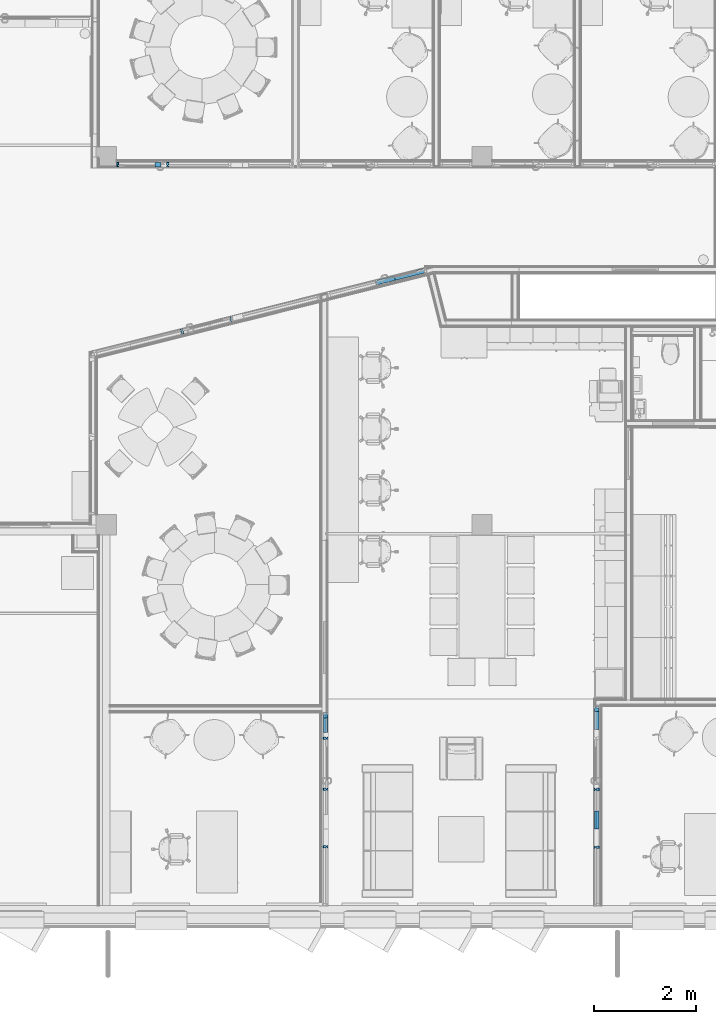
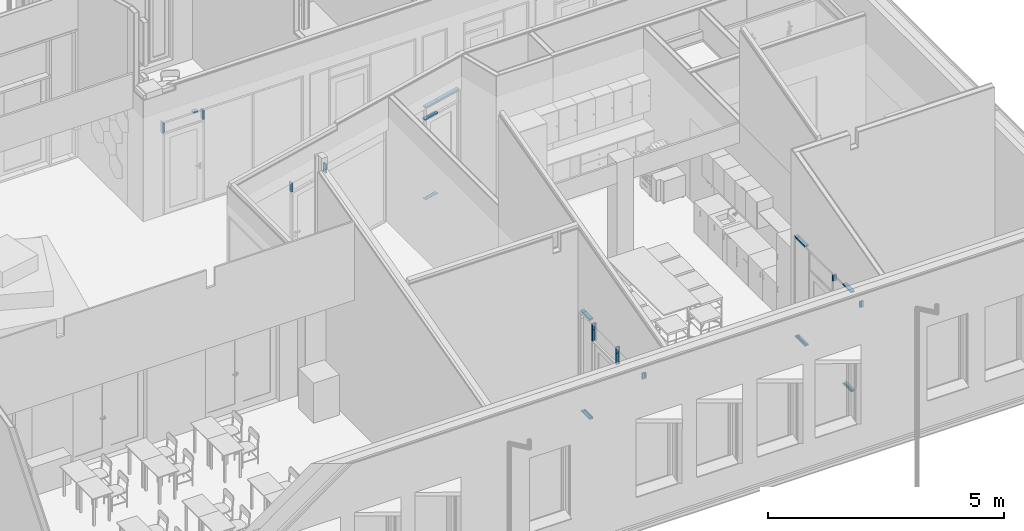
# One storey, part 5 of 153: 26 members, 5 elements without a shape of their own.
"""IFC2X3 building model written with IfcOpenShell, lengths in millimetres."""

from ifc_helpers import new_model, entity, si_unit, converted_unit, derived_unit, money_unit, direction, frame, origin_with_axes, place, context, subcontext, project, spatial, faceted_brep, source, transform, mapped, material, type_object, element, aggregate, save


model = new_model("IFC2X3")

# Units and contexts
model_context = context("Model", 3, precision=0.01, world=origin_with_axes(), true_north=direction((0.0, 1.0)))
body_context = subcontext(model_context, "Body", "Model", "MODEL_VIEW")
ifc_project = project(units=[si_unit("LENGTHUNIT", "METRE", prefix="MILLI"), si_unit("AREAUNIT", "SQUARE_METRE"), si_unit("VOLUMEUNIT", "CUBIC_METRE"), converted_unit("PLANEANGLEUNIT", "DEGREE", entity("IfcPlaneAngleMeasure", 0.0174532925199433), si_unit("PLANEANGLEUNIT", "RADIAN"), dimensions=[0, 0, 0, 0, 0, 0, 0]), money_unit("EUR"), converted_unit("TIMEUNIT", "Year", entity("IfcTimeMeasure", 31557600.0), si_unit("TIMEUNIT", "SECOND"), dimensions=[0, 0, 1, 0, 0, 0, 0]), si_unit("MASSUNIT", "GRAM", prefix="KILO"), si_unit("THERMODYNAMICTEMPERATUREUNIT", "DEGREE_CELSIUS"), si_unit("LUMINOUSINTENSITYUNIT", "LUMEN"), si_unit("ENERGYUNIT", "JOULE", prefix="MEGA"), derived_unit("THERMALCONDUCTANCEUNIT", [(si_unit("POWERUNIT", "WATT"), 1), (si_unit("LENGTHUNIT", "METRE"), -1), (si_unit("THERMODYNAMICTEMPERATUREUNIT", "KELVIN"), -1)]), derived_unit("SPECIFICHEATCAPACITYUNIT", [(si_unit("ENERGYUNIT", "JOULE"), 1), (si_unit("MASSUNIT", "GRAM", prefix="KILO"), -1), (si_unit("THERMODYNAMICTEMPERATUREUNIT", "KELVIN"), -1)]), derived_unit("MASSDENSITYUNIT", [(si_unit("MASSUNIT", "GRAM", prefix="KILO"), 1), (si_unit("VOLUMEUNIT", "CUBIC_METRE"), -1)])], contexts=[model_context])

# Site, building, storey
site_placement = place(None, frame((0.0, 0.0, 8650.0), z_axis=(0.0, 0.0, 1.0), x_axis=(1.0, 0.0, 0.0)))
site = spatial("IfcSite", under=ifc_project, at=site_placement, Name="43301:001:0844", CompositionType="ELEMENT")
building_placement = place(site_placement, origin_with_axes())
building = spatial("IfcBuilding", under=site, at=building_placement, Name="Kuressaare Ametikooli tuulikute mehaanikute õppekorpus", CompositionType="ELEMENT")
storey_placement = place(building_placement, frame((0.0, 0.0, 4100.0), z_axis=(0.0, 0.0, 1.0), x_axis=(1.0, 0.0, 0.0)))
storey = spatial("IfcBuildingStorey", under=building, at=storey_placement, Name="2.korrus", CompositionType="ELEMENT", Elevation=4100.0)

# Curtain wall, members
curtain_wall_type = type_object("IfcCurtainWallType", Name="Curtain Wall Type", PredefinedType="NOTDEFINED")
curtain_wall_1_placement = place(storey_placement, frame((122879.3962682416, 12626.24529387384, 0.0), z_axis=(0.0, 0.0, 1.0), x_axis=(1.0, 0.0, 0.0)))
curtain_wall_1 = element("IfcCurtainWall", 1, at=curtain_wall_1_placement, inside=storey, type_object=curtain_wall_type, Name="PKF-3")
ifc_material = material(Name="Aluminium")
member_type_1 = type_object("IfcMemberType", Name="Boundary Frame 40 x 90", PredefinedType="NOTDEFINED")
shared_shape_1 = source(origin_with_axes(), body_context, "Body", "Brep", [
    faceted_brep([(-25.0, -15.0, 287.0486471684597), (-40.0, -15.0, 287.0486471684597), (-40.0, -65.0, 287.0486471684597), (0.0, -65.0, 287.0486471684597), (0.0, 0.0, 287.0486471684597), (0.0, 24.99999999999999, 287.0486471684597), (-40.0, 24.99999999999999, 287.0486471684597), (-40.0, 15.0, 287.0486471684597), (-25.0, 15.0, 287.0486471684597), (-25.0, -15.0, 0.0), (-40.0, -15.0, 0.0), (-40.0, -65.0, 0.0), (0.0, -65.0, 0.0), (0.0, 0.0, 0.0), (0.0, 24.99999999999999, 0.0), (-40.0, 24.99999999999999, 0.0), (-40.0, 15.0, 0.0), (-25.0, 15.0, 0.0)], [[[0, 1, 2, 3, 4, 5, 6, 7, 8]], [[0, 9, 10, 1]], [[10, 11, 2, 1]], [[11, 12, 3, 2]], [[12, 13, 4, 3]], [[13, 14, 5, 4]], [[14, 15, 6, 5]], [[7, 6, 15, 16]], [[16, 17, 8, 7]], [[8, 17, 9, 0]], [[9, 17, 16, 15, 14, 13, 12, 11, 10]]]),
])
member_1_placement = place(curtain_wall_1_placement, frame((0.0, -117.9358905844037, 2600.0), z_axis=(0.0, 1.0, 0.0), x_axis=(0.0, 0.0, 1.0)))
member_1 = element("IfcMember", 2, at=member_1_placement, type_object=member_type_1, material=ifc_material, context=body_context, shape_type="MappedRepresentation", body=[
    mapped(shared_shape_1, transform((0.0, 0.0, 0.0))),
])
shared_shape_2 = source(origin_with_axes(), body_context, "Body", "Brep", [
    faceted_brep([(-25.0, -15.0, 77.57788238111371), (-40.0, -15.0, 62.57787646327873), (-40.0, -65.0, 62.57787646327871), (0.0, -65.0, 102.577892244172), (0.0, 0.0, 102.577892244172), (0.0, 24.99999999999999, 102.577892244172), (-40.0, 24.99999999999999, 62.57787646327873), (-40.0, 15.0, 62.57787646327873), (-25.0, 15.0, 77.57788238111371), (-25.0, -15.0, 0.0), (-40.0, -15.0, 0.0), (-40.0, -65.0, 0.0), (0.0, -65.0, 0.0), (0.0, 0.0, 0.0), (0.0, 24.99999999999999, 0.0), (-40.0, 24.99999999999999, 0.0), (-40.0, 15.0, 0.0), (-25.0, 15.0, 0.0)], [[[0, 1, 2, 3, 4, 5, 6, 7, 8]], [[0, 9, 10, 1]], [[10, 11, 2, 1]], [[11, 12, 3, 2]], [[12, 13, 4, 3]], [[13, 14, 5, 4]], [[14, 15, 6, 5]], [[7, 6, 15, 16]], [[16, 17, 8, 7]], [[8, 17, 9, 0]], [[9, 17, 16, 15, 14, 13, 12, 11, 10]]]),
])
member_2_placement = place(curtain_wall_1_placement, frame((0.0, 169.1127565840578, 2600.0), z_axis=(0.0, 1.0, 0.0), x_axis=(0.0, 0.0, 1.0)))
member_2 = element("IfcMember", 3, at=member_2_placement, type_object=member_type_1, material=ifc_material, context=body_context, shape_type="MappedRepresentation", body=[
    mapped(shared_shape_2, transform((0.0, 0.0, 0.0))),
])

# Curtain wall, member
curtain_wall_2_placement = place(storey_placement, frame((128142.9907946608, 12695.39546179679, 0.0), z_axis=(0.0, 0.0, 1.0), x_axis=(1.0, 0.0, 0.0)))
curtain_wall_2 = element("IfcCurtainWall", 4, at=curtain_wall_2_placement, inside=storey, type_object=curtain_wall_type, Name="PKF-4")
member_3_placement = place(curtain_wall_2_placement, frame((0.0, 226.0735254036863, 0.0), z_axis=(0.0, 1.0, 0.0), x_axis=(0.0, 0.0, 1.0)))
member_3 = element("IfcMember", 5, at=member_3_placement, type_object=member_type_1, material=ifc_material, context=body_context, shape_type="MappedRepresentation", body=[
    mapped(shared_shape_2, transform((0.0, 0.0, 0.0), x_axis=(-1.0, 0.0, 0.0), y_axis=(0.0, -1.0, 0.0), z_axis=(0.0, 0.0, 1.0))),
])

# Member
shared_shape_3 = source(origin_with_axes(), body_context, "Body", "Brep", [
    faceted_brep([(25.0, -15.0, 287.0486471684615), (25.0, 15.0, 287.0486471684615), (40.0, 15.0, 287.0486471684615), (40.0, 24.99999999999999, 287.0486471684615), (0.0, 24.99999999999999, 287.0486471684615), (0.0, 0.0, 287.0486471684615), (0.0, -65.0, 287.0486471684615), (40.0, -65.0, 287.0486471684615), (40.0, -15.0, 287.0486471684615), (25.0, -15.0, 0.0), (25.0, 15.0, 0.0), (40.0, 15.0, 0.0), (40.0, 24.99999999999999, 0.0), (0.0, 24.99999999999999, 0.0), (0.0, 0.0, 0.0), (0.0, -65.0, 0.0), (40.0, -65.0, 0.0), (40.0, -15.0, 0.0)], [[[0, 1, 2, 3, 4, 5, 6, 7, 8]], [[1, 0, 9, 10]], [[11, 2, 1, 10]], [[2, 11, 12, 3]], [[13, 4, 3, 12]], [[14, 5, 4, 13]], [[15, 6, 5, 14]], [[16, 7, 6, 15]], [[17, 8, 7, 16]], [[0, 8, 17, 9]], [[9, 17, 16, 15, 14, 13, 12, 11, 10]]]),
])
member_4_placement = place(curtain_wall_1_placement, frame((0.0, -117.9358905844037, 0.0), z_axis=(0.0, 1.0, 0.0), x_axis=(0.0, 0.0, 1.0)))
member_4 = element("IfcMember", 6, at=member_4_placement, type_object=member_type_1, material=ifc_material, context=body_context, shape_type="MappedRepresentation", body=[
    mapped(shared_shape_3, transform((0.0, 0.0, 0.0))),
])

shared_shape_4 = source(origin_with_axes(), body_context, "Body", "Brep", [
    faceted_brep([(25.0, -15.0, 77.57781333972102), (25.0, 15.0, 77.57781333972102), (40.0, 15.0, 62.57781333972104), (40.0, 24.99999999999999, 62.57781333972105), (0.0, 24.99999999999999, 102.577813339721), (0.0, 0.0, 102.577813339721), (0.0, -65.0, 102.577813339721), (40.0, -65.0, 62.57781333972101), (40.0, -15.0, 62.57781333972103), (25.0, -15.0, 0.0), (25.0, 15.0, 0.0), (40.0, 15.0, 0.0), (40.0, 24.99999999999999, 0.0), (0.0, 24.99999999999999, 0.0), (0.0, 0.0, 0.0), (0.0, -65.0, 0.0), (40.0, -65.0, 0.0), (40.0, -15.0, 0.0)], [[[0, 1, 2, 3, 4, 5, 6, 7, 8]], [[1, 0, 9, 10]], [[11, 2, 1, 10]], [[2, 11, 12, 3]], [[13, 4, 3, 12]], [[14, 5, 4, 13]], [[15, 6, 5, 14]], [[16, 7, 6, 15]], [[17, 8, 7, 16]], [[0, 8, 17, 9]], [[9, 17, 16, 15, 14, 13, 12, 11, 10]]]),
])
member_5_placement = place(curtain_wall_1_placement, frame((0.0, 169.1127565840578, 0.0), z_axis=(0.0, 1.0, 0.0), x_axis=(0.0, 0.0, 1.0)))
member_5 = element("IfcMember", 7, at=member_5_placement, type_object=member_type_1, material=ifc_material, context=body_context, shape_type="MappedRepresentation", body=[
    mapped(shared_shape_4, transform((0.0, 0.0, 0.0))),
])

member_6_placement = place(curtain_wall_2_placement, frame((0.0, 226.0735254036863, 2600.0), z_axis=(0.0, 1.0, 0.0), x_axis=(0.0, 0.0, 1.0)))
member_6 = element("IfcMember", 8, at=member_6_placement, type_object=member_type_1, material=ifc_material, context=body_context, shape_type="MappedRepresentation", body=[
    mapped(shared_shape_4, transform((0.0, 0.0, 0.0), x_axis=(-1.0, 0.0, 0.0), y_axis=(0.0, -1.0, 0.0), z_axis=(0.0, 0.0, 1.0))),
])

member_type_2 = type_object("IfcMemberType", Name="Mullion Frame 40 x 90", PredefinedType="NOTDEFINED")
shared_shape_5 = source(origin_with_axes(), body_context, "Body", "Brep", [
    faceted_brep([(-5.000000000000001, -15.0, 160.0000000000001), (-20.0, -15.0, 160.0000000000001), (-20.0, -65.0, 160.0000000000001), (20.0, -65.0, 160.0000000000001), (20.0, -15.0, 160.0000000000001), (5.000000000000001, -15.0, 160.0000000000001), (5.000000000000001, 15.0, 160.0000000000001), (20.0, 15.0, 160.0000000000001), (20.0, 24.99999999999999, 160.0000000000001), (-20.0, 24.99999999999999, 160.0000000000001), (-20.0, 15.0, 160.0000000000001), (-5.000000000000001, 15.0, 160.0000000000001), (-5.000000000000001, -15.0, -9.934120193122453e-08), (-20.0, -15.0, -9.934121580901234e-08), (-20.0, -65.0, -9.934121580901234e-08), (20.0, -65.0, -9.934121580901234e-08), (20.0, -15.0, -9.934121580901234e-08), (5.000000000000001, -15.0, -9.934120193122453e-08), (5.000000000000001, 15.0, -9.934120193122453e-08), (20.0, 15.0, -9.934121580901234e-08), (20.0, 24.99999999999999, -9.934121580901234e-08), (-20.0, 24.99999999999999, -9.934121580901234e-08), (-20.0, 15.0, -9.934121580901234e-08), (-5.000000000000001, 15.0, -9.934120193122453e-08)], [[[0, 1, 2, 3, 4, 5, 6, 7, 8, 9, 10, 11]], [[1, 0, 12, 13]], [[1, 13, 14, 2]], [[3, 2, 14, 15]], [[4, 3, 15, 16]], [[4, 16, 17, 5]], [[5, 17, 18, 6]], [[7, 6, 18, 19]], [[19, 20, 8, 7]], [[9, 8, 20, 21]], [[22, 10, 9, 21]], [[11, 10, 22, 23]], [[0, 11, 23, 12]], [[23, 22, 21, 20, 19, 18, 17, 16, 15, 14, 13, 12]]]),
])
member_7_placement = place(curtain_wall_1_placement, frame((0.0, -229.3563835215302, 2400.0), z_axis=(0.0, 0.0, 1.0), x_axis=(0.0, -1.0, 0.0)))
member_7 = element("IfcMember", 9, at=member_7_placement, type_object=member_type_2, material=ifc_material, context=body_context, shape_type="MappedRepresentation", body=[
    mapped(shared_shape_5, transform((0.0, 0.0, 0.0))),
])

member_8_placement = place(curtain_wall_1_placement, frame((0.0, -1229.358130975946, 2400.0), z_axis=(0.0, -1.192094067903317e-07, 0.9999999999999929), x_axis=(0.0, -0.9999999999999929, -1.192094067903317e-07)))
member_8 = element("IfcMember", 10, at=member_8_placement, type_object=member_type_2, material=ifc_material, context=body_context, shape_type="MappedRepresentation", body=[
    mapped(shared_shape_5, transform((0.0, 0.0, 0.0))),
])

member_9_placement = place(curtain_wall_1_placement, frame((0.0, -2345.882414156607, 2400.0), z_axis=(0.0, -1.115667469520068e-07, 0.9999999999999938), x_axis=(0.0, -0.9999999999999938, -1.115667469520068e-07)))
member_9 = element("IfcMember", 11, at=member_9_placement, type_object=member_type_2, material=ifc_material, context=body_context, shape_type="MappedRepresentation", body=[
    mapped(shared_shape_5, transform((0.0, 0.0, 0.0))),
])

shared_shape_6 = source(origin_with_axes(), body_context, "Body", "Brep", [
    faceted_brep([(-5.000000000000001, -15.0, 299.9999854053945), (-20.0, -15.0, 299.9999854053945), (-20.0, -65.0, 299.9999854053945), (20.0, -65.0, 299.9999854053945), (20.0, -15.0, 299.9999854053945), (5.000000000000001, -15.0, 299.9999854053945), (5.000000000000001, 15.0, 299.9999854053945), (20.0, 15.0, 299.9999854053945), (20.0, 24.99999999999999, 299.9999854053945), (-20.0, 24.99999999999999, 299.9999854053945), (-20.0, 15.0, 299.9999854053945), (-5.000000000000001, 15.0, 299.9999854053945), (-5.000000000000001, -15.0, 0.0), (-20.0, -15.0, 0.0), (-20.0, -65.0, 0.0), (20.0, -65.0, 0.0), (20.0, -15.0, 0.0), (5.000000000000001, -15.0, 0.0), (5.000000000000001, 15.0, 0.0), (20.0, 15.0, 0.0), (20.0, 24.99999999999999, 0.0), (-20.0, 24.99999999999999, 0.0), (-20.0, 15.0, 0.0), (-5.000000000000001, 15.0, 0.0)], [[[0, 1, 2, 3, 4, 5, 6, 7, 8, 9, 10, 11]], [[1, 0, 12, 13]], [[1, 13, 14, 2]], [[3, 2, 14, 15]], [[4, 3, 15, 16]], [[4, 16, 17, 5]], [[5, 17, 18, 6]], [[7, 6, 18, 19]], [[19, 20, 8, 7]], [[9, 8, 20, 21]], [[22, 10, 9, 21]], [[11, 10, 22, 23]], [[0, 11, 23, 12]], [[23, 22, 21, 20, 19, 18, 17, 16, 15, 14, 13, 12]]]),
])
member_10_placement = place(curtain_wall_1_placement, frame((0.0, -229.356382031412, 2100.000014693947), z_axis=(0.0, -4.967061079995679e-09, 1.0), x_axis=(0.0, -1.0, -4.967061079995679e-09)))
member_10 = element("IfcMember", 12, at=member_10_placement, type_object=member_type_2, material=ifc_material, context=body_context, shape_type="MappedRepresentation", body=[
    mapped(shared_shape_6, transform((0.0, 0.0, 0.0))),
])

member_11_placement = place(curtain_wall_1_placement, frame((0.0, -1229.358130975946, 2099.999978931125), z_axis=(0.0, 0.0, 1.0), x_axis=(0.0, -1.0, 0.0)))
member_11 = element("IfcMember", 13, at=member_11_placement, type_object=member_type_2, material=ifc_material, context=body_context, shape_type="MappedRepresentation", body=[
    mapped(shared_shape_6, transform((0.0, 0.0, 0.0))),
])

aggregate(curtain_wall_1, [member_1, member_2, member_4, member_5, member_7, member_10, member_8, member_11, member_9])

shared_shape_7 = source(origin_with_axes(), body_context, "Body", "Brep", [
    faceted_brep([(-25.0, -15.0, 350.1041155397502), (-40.0, -15.0, 350.1041155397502), (-40.0, -65.0, 350.1041155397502), (0.0, -65.0, 350.1041155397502), (0.0, 0.0, 350.1041155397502), (0.0, 24.99999999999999, 350.1041155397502), (-40.0, 24.99999999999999, 350.1041155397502), (-40.0, 15.0, 350.1041155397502), (-25.0, 15.0, 350.1041155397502), (-25.0, -15.0, 0.0), (-40.0, -15.0, 0.0), (-40.0, -65.0, 0.0), (0.0, -65.0, 0.0), (0.0, 0.0, 0.0), (0.0, 24.99999999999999, 0.0), (-40.0, 24.99999999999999, 0.0), (-40.0, 15.0, 0.0), (-25.0, 15.0, 0.0)], [[[0, 1, 2, 3, 4, 5, 6, 7, 8]], [[0, 9, 10, 1]], [[10, 11, 2, 1]], [[11, 12, 3, 2]], [[12, 13, 4, 3]], [[13, 14, 5, 4]], [[14, 15, 6, 5]], [[7, 6, 15, 16]], [[16, 17, 8, 7]], [[8, 17, 9, 0]], [[9, 17, 16, 15, 14, 13, 12, 11, 10]]]),
])
member_12_placement = place(curtain_wall_2_placement, frame((0.0, -124.0305901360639, 0.0), z_axis=(0.0, 1.0, 0.0), x_axis=(0.0, 0.0, 1.0)))
member_12 = element("IfcMember", 14, at=member_12_placement, type_object=member_type_1, material=ifc_material, context=body_context, shape_type="MappedRepresentation", body=[
    mapped(shared_shape_7, transform((0.0, 0.0, 0.0), x_axis=(-1.0, 0.0, 0.0), y_axis=(0.0, -1.0, 0.0), z_axis=(0.0, 0.0, 1.0))),
])

member_13_placement = place(curtain_wall_2_placement, frame((0.0, -2074.134705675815, 0.0), z_axis=(0.0, 1.0, 0.0), x_axis=(0.0, 0.0, 1.0)))
member_13 = element("IfcMember", 15, at=member_13_placement, type_object=member_type_1, material=ifc_material, context=body_context, shape_type="MappedRepresentation", body=[
    mapped(shared_shape_7, transform((0.0, 0.0, 0.0), x_axis=(-1.0, 0.0, 0.0), y_axis=(0.0, -1.0, 0.0), z_axis=(0.0, 0.0, 1.0))),
])

shared_shape_8 = source(origin_with_axes(), body_context, "Body", "Brep", [
    faceted_brep([(25.0, -15.0, 350.1041155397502), (25.0, 15.0, 350.1041155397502), (40.0, 15.0, 350.1041155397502), (40.0, 24.99999999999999, 350.1041155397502), (0.0, 24.99999999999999, 350.1041155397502), (0.0, 0.0, 350.1041155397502), (0.0, -65.0, 350.1041155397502), (40.0, -65.0, 350.1041155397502), (40.0, -15.0, 350.1041155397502), (25.0, -15.0, 0.0), (25.0, 15.0, 0.0), (40.0, 15.0, 0.0), (40.0, 24.99999999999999, 0.0), (0.0, 24.99999999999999, 0.0), (0.0, 0.0, 0.0), (0.0, -65.0, 0.0), (40.0, -65.0, 0.0), (40.0, -15.0, 0.0)], [[[0, 1, 2, 3, 4, 5, 6, 7, 8]], [[1, 0, 9, 10]], [[11, 2, 1, 10]], [[2, 11, 12, 3]], [[13, 4, 3, 12]], [[14, 5, 4, 13]], [[15, 6, 5, 14]], [[16, 7, 6, 15]], [[17, 8, 7, 16]], [[0, 8, 17, 9]], [[9, 17, 16, 15, 14, 13, 12, 11, 10]]]),
])
member_14_placement = place(curtain_wall_2_placement, frame((0.0, -2074.134705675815, 2600.0), z_axis=(0.0, 1.0, 0.0), x_axis=(0.0, 0.0, 1.0)))
member_14 = element("IfcMember", 16, at=member_14_placement, type_object=member_type_1, material=ifc_material, context=body_context, shape_type="MappedRepresentation", body=[
    mapped(shared_shape_8, transform((0.0, 0.0, 0.0), x_axis=(-1.0, 0.0, 0.0), y_axis=(0.0, -1.0, 0.0), z_axis=(0.0, 0.0, 1.0))),
])

member_15_placement = place(curtain_wall_2_placement, frame((0.0, -124.0305901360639, 2600.0), z_axis=(0.0, 1.0, 0.0), x_axis=(0.0, 0.0, 1.0)))
member_15 = element("IfcMember", 17, at=member_15_placement, type_object=member_type_1, material=ifc_material, context=body_context, shape_type="MappedRepresentation", body=[
    mapped(shared_shape_8, transform((0.0, 0.0, 0.0), x_axis=(-1.0, 0.0, 0.0), y_axis=(0.0, -1.0, 0.0), z_axis=(0.0, 0.0, 1.0))),
])

shared_shape_9 = source(origin_with_axes(), body_context, "Body", "Brep", [
    faceted_brep([(5.000000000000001, -15.0, 160.0000234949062), (5.000000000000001, 15.0, 160.0000234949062), (20.0, 15.0, 160.0000234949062), (20.0, 24.99999999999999, 160.0000234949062), (-20.0, 24.99999999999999, 160.0000234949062), (-20.0, 15.0, 160.0000234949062), (-5.000000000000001, 15.0, 160.0000234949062), (-5.000000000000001, -15.0, 160.0000234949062), (-20.0, -15.0, 160.0000234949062), (-20.0, -65.0, 160.0000234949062), (20.0, -65.0, 160.0000234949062), (20.0, -15.0, 160.0000234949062), (5.000000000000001, -15.0, -2.528326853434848e-06), (5.000000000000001, 15.0, -2.528326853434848e-06), (20.0, 15.0, -2.528326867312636e-06), (20.0, 24.99999999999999, -2.528326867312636e-06), (-20.0, 24.99999999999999, -2.528326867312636e-06), (-20.0, 15.0, -2.528326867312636e-06), (-5.000000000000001, 15.0, -2.528326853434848e-06), (-5.000000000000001, -15.0, -2.528326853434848e-06), (-20.0, -15.0, -2.528326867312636e-06), (-20.0, -65.0, -2.528326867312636e-06), (20.0, -65.0, -2.528326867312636e-06), (20.0, -15.0, -2.528326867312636e-06)], [[[0, 1, 2, 3, 4, 5, 6, 7, 8, 9, 10, 11]], [[0, 12, 13, 1]], [[1, 13, 14, 2]], [[14, 15, 3, 2]], [[3, 15, 16, 4]], [[17, 5, 4, 16]], [[5, 17, 18, 6]], [[7, 6, 18, 19]], [[8, 7, 19, 20]], [[8, 20, 21, 9]], [[9, 21, 22, 10]], [[11, 10, 22, 23]], [[11, 23, 12, 0]], [[13, 12, 23, 22, 21, 20, 19, 18, 17, 16, 15, 14]]]),
])
member_16_placement = place(curtain_wall_2_placement, frame((0.0, -1299.32095018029, 2400.0), z_axis=(0.0, -1.490117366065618e-07, 0.9999999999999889), x_axis=(0.0, -0.9999999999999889, -1.490117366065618e-07)))
member_16 = element("IfcMember", 18, at=member_16_placement, type_object=member_type_2, material=ifc_material, context=body_context, shape_type="MappedRepresentation", body=[
    mapped(shared_shape_9, transform((0.0, 0.0, 0.0), x_axis=(-0.9999999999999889, 0.0, -1.490117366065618e-07), y_axis=(0.0, -1.0, 0.0), z_axis=(-1.490117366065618e-07, 0.0, 0.9999999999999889))),
])

member_17_placement = place(curtain_wall_2_placement, frame((0.0, -2425.438877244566, 2400.0), z_axis=(0.0, -9.800084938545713e-08, 0.9999999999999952), x_axis=(0.0, -0.9999999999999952, -9.800084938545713e-08)))
member_17 = element("IfcMember", 19, at=member_17_placement, type_object=member_type_2, material=ifc_material, context=body_context, shape_type="MappedRepresentation", body=[
    mapped(shared_shape_9, transform((0.0, 0.0, 0.0), x_axis=(-0.9999999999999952, 0.0, -9.800084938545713e-08), y_axis=(0.0, -1.0, 0.0), z_axis=(-9.800084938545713e-08, 0.0, 0.9999999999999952))),
])

aggregate(curtain_wall_2, [member_12, member_3, member_14, member_15, member_6, member_13, member_16, member_17])

# Curtain wall, members
curtain_wall_3_placement = place(storey_placement, frame((120547.3158940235, 20502.05468019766, 0.0), z_axis=(0.0, 0.0, 1.0), x_axis=(1.0, 0.0, 0.0)))
curtain_wall_3 = element("IfcCurtainWall", 20, at=curtain_wall_3_placement, inside=storey, type_object=curtain_wall_type, Name="PKF-2.2")
shared_shape_10 = source(origin_with_axes(), body_context, "Body", "Brep", [
    faceted_brep([(-5.000000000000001, -15.0, 260.000051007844), (-20.0, -15.0, 260.000051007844), (-20.0, -65.0, 260.000051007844), (20.0, -65.0, 260.000051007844), (20.0, -15.0, 260.000051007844), (5.000000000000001, -15.0, 260.000051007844), (5.000000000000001, 15.0, 260.000051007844), (20.0, 15.0, 260.000051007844), (20.0, 24.99999999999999, 260.000051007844), (-20.0, 24.99999999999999, 260.000051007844), (-20.0, 15.0, 260.000051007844), (-5.000000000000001, 15.0, 260.000051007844), (-5.000000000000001, -15.0, 20.00000000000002), (-20.0, -15.0, 20.00000000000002), (-20.0, -65.0, 20.00000000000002), (20.0, -65.0, 20.00000000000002), (20.0, -15.0, 20.00000000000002), (5.000000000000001, -15.0, 20.00000000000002), (5.000000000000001, 15.0, 20.00000000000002), (20.0, 15.0, 20.00000000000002), (20.0, 24.99999999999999, 20.00000000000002), (-20.0, 24.99999999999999, 20.00000000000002), (-20.0, 15.0, 20.00000000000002), (-5.000000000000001, 15.0, 20.00000000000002)], [[[0, 1, 2, 3, 4, 5, 6, 7, 8, 9, 10, 11]], [[1, 0, 12, 13]], [[1, 13, 14, 2]], [[2, 14, 15, 3]], [[4, 3, 15, 16]], [[4, 16, 17, 5]], [[5, 17, 18, 6]], [[7, 6, 18, 19]], [[19, 20, 8, 7]], [[8, 20, 21, 9]], [[22, 10, 9, 21]], [[11, 10, 22, 23]], [[0, 11, 23, 12]], [[23, 22, 21, 20, 19, 18, 17, 16, 15, 14, 13, 12]]]),
])
member_18_placement = place(curtain_wall_3_placement, frame((466.5028368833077, 116.9492698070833, 2100.000034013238), z_axis=(0.0, 0.0, 1.0), x_axis=(0.9699839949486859, 0.2431687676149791, 0.0)))
member_18 = element("IfcMember", 21, at=member_18_placement, type_object=member_type_2, material=ifc_material, context=body_context, shape_type="MappedRepresentation", body=[
    mapped(shared_shape_10, transform((0.0, 0.0, 0.0))),
])
member_19_placement = place(curtain_wall_3_placement, frame((-503.1880193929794, -126.1460098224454, 2100.000033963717), z_axis=(0.0, 0.0, 1.0), x_axis=(0.9699839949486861, 0.2431687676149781, 0.0)))
member_19 = element("IfcMember", 22, at=member_19_placement, type_object=member_type_2, material=ifc_material, context=body_context, shape_type="MappedRepresentation", body=[
    mapped(shared_shape_10, transform((0.0, 0.0, 0.0))),
])
aggregate(curtain_wall_3, [member_18, member_19])

# Curtain wall, member
curtain_wall_4_placement = place(storey_placement, frame((119422.8886145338, 23599.06892395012, 7.49398259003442e-05), z_axis=(0.0, 0.0, 1.0), x_axis=(1.0, 0.0, 0.0)))
curtain_wall_4 = element("IfcCurtainWall", 23, at=curtain_wall_4_placement, inside=storey, type_object=curtain_wall_type, Name="PKF-1.1")
member_20_placement = place(curtain_wall_4_placement, frame((345.0579609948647, 0.0, 2099.999921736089), z_axis=(0.0, 0.0, 1.0), x_axis=(-1.0, 0.0, 0.0)))
member_20 = element("IfcMember", 24, at=member_20_placement, type_object=member_type_2, material=ifc_material, context=body_context, shape_type="MappedRepresentation", body=[
    mapped(shared_shape_10, transform((0.0, 0.0, 0.0))),
])

# Curtain wall, members
curtain_wall_5_placement = place(storey_placement, frame((123471.3194861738, 21235.04693506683, 4.768376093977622e-05), z_axis=(0.0, 0.0, 1.0), x_axis=(1.0, 0.0, 0.0)))
curtain_wall_5 = element("IfcCurtainWall", 25, at=curtain_wall_5_placement, inside=storey, type_object=curtain_wall_type, Name="PKF-2.3")
shared_shape_11 = source(origin_with_axes(), body_context, "Body", "Brep", [
    faceted_brep([(-25.0, -15.0, 638.0427759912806), (-40.0, -15.0, 638.0427759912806), (-40.0, -65.0, 638.0427759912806), (0.0, -65.0, 638.0427759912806), (0.0, 0.0, 638.0427759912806), (0.0, 24.99999999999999, 638.0427759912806), (-40.0, 24.99999999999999, 638.0427759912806), (-40.0, 15.0, 638.0427759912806), (-25.0, 15.0, 638.0427759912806), (-25.0, -15.0, 25.00000000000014), (-40.0, -15.0, 39.99999999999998), (-40.0, -65.0, 40.00000000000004), (0.0, -65.0, 0.0), (0.0, 0.0, 0.0), (0.0, 24.99999999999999, 0.0), (-40.0, 24.99999999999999, 39.99999999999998), (-40.0, 15.0, 39.99999999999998), (-25.0, 15.0, 25.00000000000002)], [[[0, 1, 2, 3, 4, 5, 6, 7, 8]], [[0, 9, 10, 1]], [[10, 11, 2, 1]], [[2, 11, 12, 3]], [[3, 12, 13, 4]], [[4, 13, 14, 5]], [[5, 14, 15, 6]], [[7, 6, 15, 16]], [[16, 17, 8, 7]], [[8, 17, 9, 0]], [[9, 17, 16, 15, 14, 13, 12, 11, 10]]]),
])
member_21_placement = place(curtain_wall_5_placement, frame((1352.64886301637, 339.0329700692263, 2399.999999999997), z_axis=(-0.96999539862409, -0.2431232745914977, 0.0), x_axis=(0.0, 0.0, 1.0)))
member_21 = element("IfcMember", 26, at=member_21_placement, type_object=member_type_1, material=ifc_material, context=body_context, shape_type="MappedRepresentation", body=[
    mapped(shared_shape_11, transform((0.0, 0.0, 0.0))),
])
member_type_3 = type_object("IfcMemberType", Name="10 x 90", PredefinedType="NOTDEFINED")
shared_shape_12 = source(origin_with_axes(), body_context, "Body", "Brep", [
    faceted_brep([(5.0, -15.0, 361.9572485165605), (5.0, 15.0, 361.9572485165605), (10.0, 15.0, 361.9572485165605), (10.0, 24.99999999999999, 361.9572485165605), (0.0, 24.99999999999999, 361.9572485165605), (0.0, 0.0, 361.9572485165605), (0.0, -65.0, 361.9572485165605), (10.0, -65.0, 361.9572485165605), (10.0, -15.0, 361.9572485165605), (5.0, -15.0, 0.0), (5.0, 15.0, 0.0), (10.0, 15.0, 0.0), (10.0, 24.99999999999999, 0.0), (0.0, 24.99999999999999, 0.0), (0.0, 0.0, 0.0), (0.0, -65.0, 0.0), (10.0, -65.0, 0.0), (10.0, -15.0, 0.0)], [[[0, 1, 2, 3, 4, 5, 6, 7, 8]], [[1, 0, 9, 10]], [[11, 2, 1, 10]], [[2, 11, 12, 3]], [[13, 4, 3, 12]], [[14, 5, 4, 13]], [[15, 6, 5, 14]], [[16, 7, 6, 15]], [[17, 8, 7, 16]], [[0, 8, 17, 9]], [[9, 17, 16, 15, 14, 13, 12, 11, 10]]]),
])
member_22_placement = place(curtain_wall_5_placement, frame((733.7503883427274, 183.9099416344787, -4.768376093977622e-05), z_axis=(-0.9699953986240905, -0.2431232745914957, 0.0), x_axis=(0.0, 0.0, 1.0)))
member_22 = element("IfcMember", 27, at=member_22_placement, type_object=member_type_3, material=ifc_material, context=body_context, shape_type="MappedRepresentation", body=[
    mapped(shared_shape_12, transform((0.0, 0.0, 0.0))),
])
shared_shape_13 = source(origin_with_axes(), body_context, "Body", "Brep", [
    faceted_brep([(-25.0, -15.0, 361.9572674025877), (-40.0, -15.0, 361.9572674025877), (-40.0, -65.0, 361.9572674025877), (0.0, -65.0, 361.9572674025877), (0.0, 0.0, 361.9572674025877), (0.0, 24.99999999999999, 361.9572674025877), (-40.0, 24.99999999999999, 361.9572674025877), (-40.0, 15.0, 361.9572674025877), (-25.0, 15.0, 361.9572674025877), (-25.0, -15.0, 0.0), (-40.0, -15.0, 0.0), (-40.0, -65.0, 0.0), (0.0, -65.0, 0.0), (0.0, 0.0, 0.0), (0.0, 24.99999999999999, 0.0), (-40.0, 24.99999999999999, 0.0), (-40.0, 15.0, 0.0), (-25.0, 15.0, 0.0)], [[[0, 1, 2, 3, 4, 5, 6, 7, 8]], [[0, 9, 10, 1]], [[10, 11, 2, 1]], [[11, 12, 3, 2]], [[12, 13, 4, 3]], [[13, 14, 5, 4]], [[14, 15, 6, 5]], [[7, 6, 15, 16]], [[16, 17, 8, 7]], [[8, 17, 9, 0]], [[9, 17, 16, 15, 14, 13, 12, 11, 10]]]),
])
member_23_placement = place(curtain_wall_5_placement, frame((733.7503883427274, 183.9099416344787, 2399.999999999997), z_axis=(-0.9699953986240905, -0.2431232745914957, 0.0), x_axis=(0.0, 0.0, 1.0)))
member_23 = element("IfcMember", 28, at=member_23_placement, type_object=member_type_1, material=ifc_material, context=body_context, shape_type="MappedRepresentation", body=[
    mapped(shared_shape_13, transform((0.0, 0.0, 0.0))),
])
shared_shape_14 = source(origin_with_axes(), body_context, "Body", "Brep", [
    faceted_brep([(-5.000000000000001, -15.0, 381.9572485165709), (-20.0, -15.0, 381.9572485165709), (-20.0, -65.0, 381.9572485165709), (20.0, -65.0, 381.9572485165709), (20.0, -15.0, 381.9572485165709), (5.000000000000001, -15.0, 381.9572485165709), (5.000000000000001, 15.0, 381.9572485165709), (20.0, 15.0, 381.9572485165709), (20.0, 24.99999999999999, 381.9572485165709), (-20.0, 24.99999999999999, 381.9572485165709), (-20.0, 15.0, 381.9572485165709), (-5.000000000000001, 15.0, 381.9572485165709), (-5.000000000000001, -15.0, 0.0), (-20.0, -15.0, 0.0), (-20.0, -65.0, 0.0), (20.0, -65.0, 0.0), (20.0, -15.0, 0.0), (5.000000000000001, -15.0, 0.0), (5.000000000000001, 15.0, 0.0), (20.0, 15.0, 0.0), (20.0, 24.99999999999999, 0.0), (-20.0, 24.99999999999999, 0.0), (-20.0, 15.0, 0.0), (-5.000000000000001, 15.0, 0.0)], [[[0, 1, 2, 3, 4, 5, 6, 7, 8, 9, 10, 11]], [[1, 0, 12, 13]], [[1, 13, 14, 2]], [[3, 2, 14, 15]], [[4, 3, 15, 16]], [[4, 16, 17, 5]], [[5, 17, 18, 6]], [[7, 6, 18, 19]], [[19, 20, 8, 7]], [[9, 8, 20, 21]], [[22, 10, 9, 21]], [[11, 10, 22, 23]], [[0, 11, 23, 12]], [[23, 22, 21, 20, 19, 18, 17, 16, 15, 14, 13, 12]]]),
])
member_24_placement = place(curtain_wall_5_placement, frame((733.7503883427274, 183.9099416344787, 2079.999968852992), z_axis=(-0.9699953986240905, -0.2431232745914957, 0.0), x_axis=(0.0, 0.0, 1.0)))
member_24 = element("IfcMember", 29, at=member_24_placement, type_object=member_type_1, material=ifc_material, context=body_context, shape_type="MappedRepresentation", body=[
    mapped(shared_shape_14, transform((0.0, 0.0, 0.0))),
])
aggregate(curtain_wall_5, [member_21, member_22, member_23, member_24])

# Member
shared_shape_15 = source(origin_with_axes(), body_context, "Body", "Brep", [
    faceted_brep([(-25.0, -15.0, 114.5608928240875), (-40.0, -15.0, 114.5608928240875), (-40.0, -65.0, 114.5608928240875), (0.0, -65.0, 114.5608928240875), (0.0, 0.0, 114.5608928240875), (0.0, 24.99999999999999, 114.5608928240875), (-40.0, 24.99999999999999, 114.5608928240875), (-40.0, 15.0, 114.5608928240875), (-25.0, 15.0, 114.5608928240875), (-25.0, -15.0, 0.0), (-40.0, -15.0, 0.0), (-40.0, -65.0, 0.0), (0.0, -65.0, 0.0), (0.0, 0.0, 0.0), (0.0, 24.99999999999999, 0.0), (-40.0, 24.99999999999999, 0.0), (-40.0, 15.0, 0.0), (-25.0, 15.0, 0.0)], [[[0, 1, 2, 3, 4, 5, 6, 7, 8]], [[0, 9, 10, 1]], [[10, 11, 2, 1]], [[11, 12, 3, 2]], [[12, 13, 4, 3]], [[13, 14, 5, 4]], [[14, 15, 6, 5]], [[7, 6, 15, 16]], [[16, 17, 8, 7]], [[8, 17, 9, 0]], [[9, 17, 16, 15, 14, 13, 12, 11, 10]]]),
])
member_25_placement = place(curtain_wall_4_placement, frame((97.66159242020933, 0.0, 2399.999972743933), z_axis=(1.0, 0.0, 0.0), x_axis=(0.0, 0.0, 1.0)))
member_25 = element("IfcMember", 30, at=member_25_placement, type_object=member_type_1, material=ifc_material, context=body_context, shape_type="MappedRepresentation", body=[
    mapped(shared_shape_15, transform((0.0, 0.0, 0.0))),
])

shared_shape_16 = source(origin_with_axes(), body_context, "Body", "Brep", [
    faceted_brep([(25.0, -15.0, 287.5000510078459), (25.0, 15.0, 287.5000510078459), (40.00000000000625, 15.0, 280.000051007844), (40.00000000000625, 24.99999999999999, 280.000051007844), (0.0, 25.00000000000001, 300.000051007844), (0.0, 0.0, 300.000051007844), (0.0, -65.0, 300.000051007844), (40.00000000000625, -65.0, 280.000051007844), (40.00000000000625, -15.0, 280.000051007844), (25.0, -15.0, 25.00000000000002), (25.0, 15.0, 25.00000000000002), (40.00000000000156, 15.0, 40.00000000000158), (40.00000000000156, 24.99999999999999, 40.00000000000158), (0.0, 24.99999999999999, 0.0), (0.0, 0.0, 0.0), (0.0, -65.0, 0.0), (40.00000000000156, -65.0, 40.00000000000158), (40.00000000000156, -15.0, 40.00000000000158)], [[[0, 1, 2, 3, 4, 5, 6, 7, 8]], [[1, 0, 9, 10]], [[11, 2, 1, 10]], [[2, 11, 12, 3]], [[3, 12, 13, 4]], [[4, 13, 14, 5]], [[5, 14, 15, 6]], [[6, 15, 16, 7]], [[17, 8, 7, 16]], [[0, 8, 17, 9]], [[9, 17, 16, 15, 14, 13, 12, 11, 10]]]),
])
member_26_placement = place(curtain_wall_4_placement, frame((-654.9420386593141, 0.0, 2399.999972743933), z_axis=(0.0, 0.0, -1.0), x_axis=(1.0, 0.0, 0.0)))
member_26 = element("IfcMember", 31, at=member_26_placement, type_object=member_type_1, material=ifc_material, context=body_context, shape_type="MappedRepresentation", body=[
    mapped(shared_shape_16, transform((0.0, 0.0, 0.0))),
])

aggregate(curtain_wall_4, [member_25, member_20, member_26])

save(model, "model.ifc")
